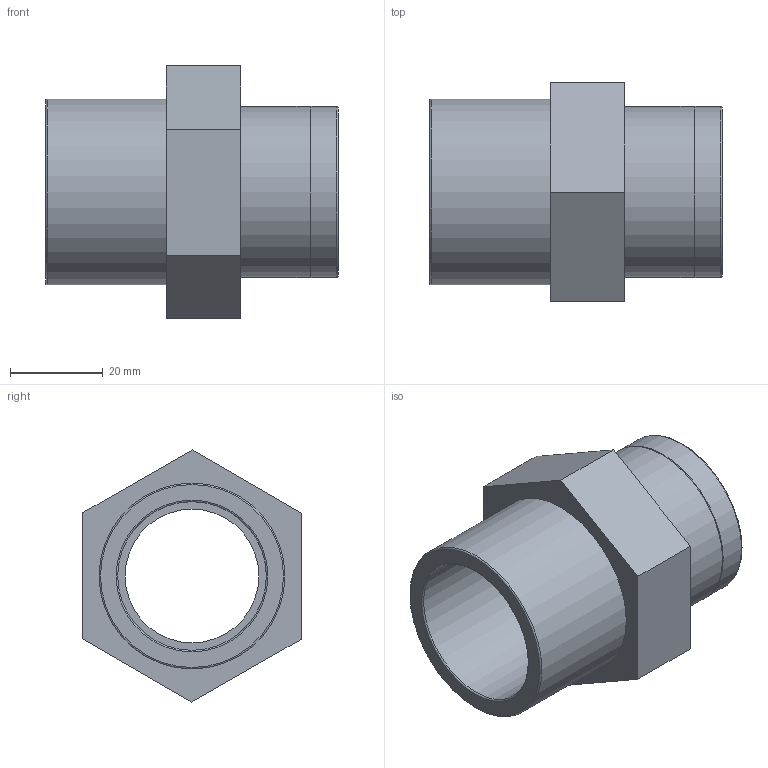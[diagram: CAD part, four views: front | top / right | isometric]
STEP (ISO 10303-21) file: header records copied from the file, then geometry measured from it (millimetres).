
FILE_DESCRIPTION(/* description */ ('PLASSON REDUCER THR-CEM REIN 40-(32)-1"'),/* implementation_level */ '2;1');
FILE_NAME(/* name */ 'C:\Dropbox\KIMPROJECTS-Inventor\99-16-3568-Processing\PVC Catalog 2017\057202\057202040010.ipt.stp',/* time_stamp */ '2017-12-07T16:05:32+02:00',/* author */ ('KIM'),/* organization */ (''),/* preprocessor_version */ 'ST-DEVELOPER v15.6',/* originating_system */ 'Autodesk Inventor 2015',/* authorisation */ '');
FILE_SCHEMA (('AUTOMOTIVE_DESIGN { 1 0 10303 214 3 1 1 }'));
Length unit declared in the file: millimetre
Products named in the file (1): 057202040010
Bounding box: 63 x 47.07 x 54.27 mm (x, y, z)
Volume: 37222.4 mm3; surface area: 16958.6 mm2
Topology: 1 solids, 1 shells, 24 faces, 47 edges, 29 vertices
Faces by surface type: plane 12, cylinder 6, torus 4, cone 2
Full cylindrical faces by diameter (mm): 28.8 x1, 30.291 x1, 32 x1, 36.8 x2, 40 x1
Entity records: 580 total; most frequent: DIRECTION 102, CARTESIAN_POINT 89, ORIENTED_EDGE 70, EDGE_LOOP 42, AXIS2_PLACEMENT_3D 42, EDGE_CURVE 35, VERTEX_POINT 29, FACE_OUTER_BOUND 24
